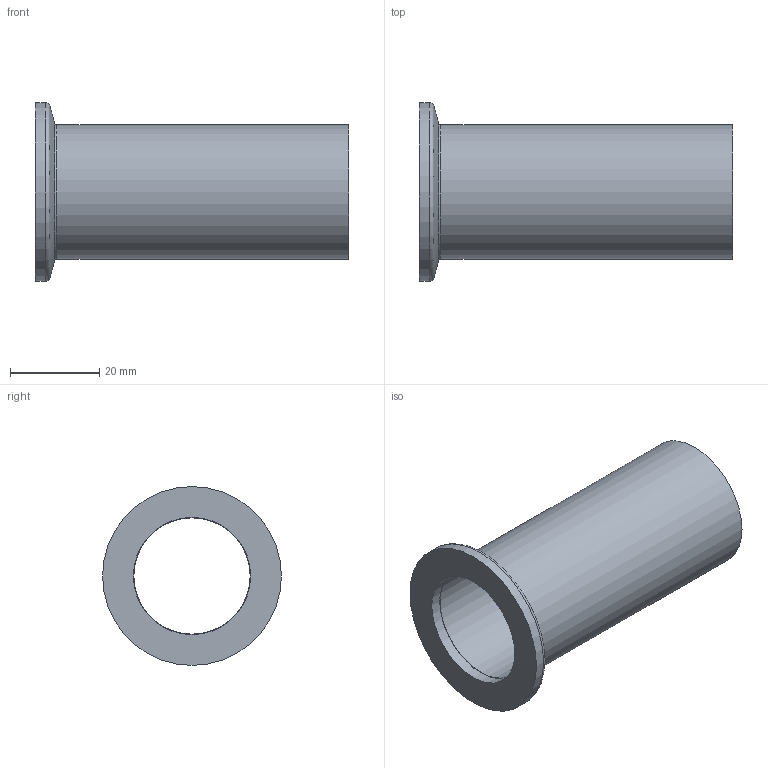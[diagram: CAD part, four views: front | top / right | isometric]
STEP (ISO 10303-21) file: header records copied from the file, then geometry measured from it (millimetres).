
FILE_DESCRIPTION((''),'2;1');
FILE_NAME('W:\3D-Modelle Inficon-Katalog\Derivate_2\M211-838.stp','2012-04-17T13:30:10',('KAA'),(''),'Autodesk Inventor 2012','Autodesk Inventor 2012','');
FILE_SCHEMA(('AUTOMOTIVE_DESIGN { 1 0 10303 214 1 1 1 1 }'));
Length unit declared in the file: millimetre
Products named in the file (1): M211-838
Bounding box: 70 x 40 x 40 mm (x, y, z)
Volume: 14284.4 mm3; surface area: 13714.1 mm2
Topology: 1 solids, 1 shells, 10 faces, 17 edges, 10 vertices
Faces by surface type: cylinder 4, plane 3, torus 2, cone 1
Full cylindrical faces by diameter (mm): 26 x1, 26.2 x1, 30 x1, 40 x1
Entity records: 234 total; most frequent: DIRECTION 42, CARTESIAN_POINT 31, AXIS2_PLACEMENT_3D 21, ORIENTED_EDGE 20, EDGE_LOOP 20, VERTEX_POINT 10, CIRCLE 10, EDGE_CURVE 10
